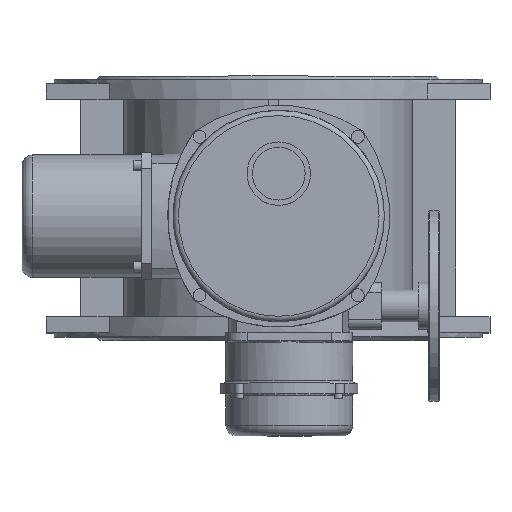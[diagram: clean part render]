
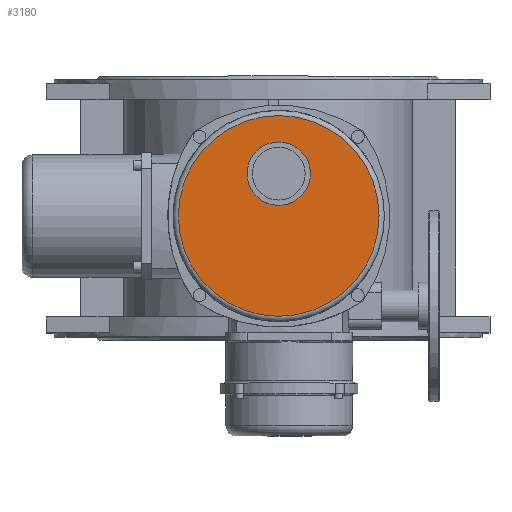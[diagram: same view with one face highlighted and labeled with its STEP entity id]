
A CAD part, top view. The second image highlights one B-rep face of the part: STEP entity #3180.
In plain terms, the highlighted planar face has unit normal (0, 0, 1).
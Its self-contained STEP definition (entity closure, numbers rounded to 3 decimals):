
#3180=ADVANCED_FACE('',(#6937,#6939),#6941,.T.);
#6937=FACE_BOUND('',#6938,.T.);
#6938=EDGE_LOOP('',(#8823));
#6939=FACE_BOUND('',#6940,.T.);
#6940=EDGE_LOOP('',(#8824));
#6941=PLANE('',#6942);
#6942=AXIS2_PLACEMENT_3D('',#6943,#6944,#6945);
#6943=CARTESIAN_POINT('',(10.,-8.,456.));
#6944=DIRECTION('',(0.,0.,1.));
#6945=DIRECTION('',(1.,0.,0.));
#8823=ORIENTED_EDGE('',*,*,#9724,.T.);
#8824=ORIENTED_EDGE('',*,*,#9787,.F.);
#9724=EDGE_CURVE('',#11119,#11119,#11120,.T.);
#9787=EDGE_CURVE('',#11221,#11221,#11222,.T.);
#11119=VERTEX_POINT('',#16678);
#11120=CIRCLE('',#16679,95.);
#11221=VERTEX_POINT('',#16939);
#11222=CIRCLE('',#16940,30.);
#16678=CARTESIAN_POINT('',(105.,-8.,456.));
#16679=AXIS2_PLACEMENT_3D('',#16680,#16681,#16682);
#16680=CARTESIAN_POINT('',(10.,-8.,456.));
#16681=DIRECTION('',(0.,0.,1.));
#16682=DIRECTION('',(1.,0.,0.));
#16939=CARTESIAN_POINT('',(40.,32.,456.));
#16940=AXIS2_PLACEMENT_3D('',#16941,#16942,#16943);
#16941=CARTESIAN_POINT('',(10.,32.,456.));
#16942=DIRECTION('',(0.,0.,1.));
#16943=DIRECTION('',(1.,0.,0.));
